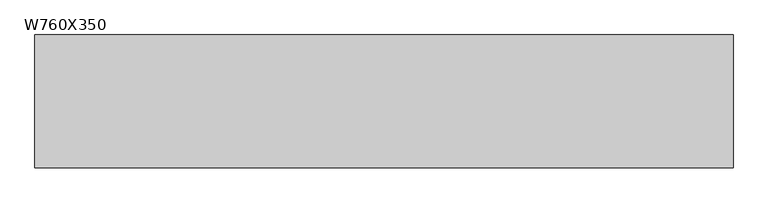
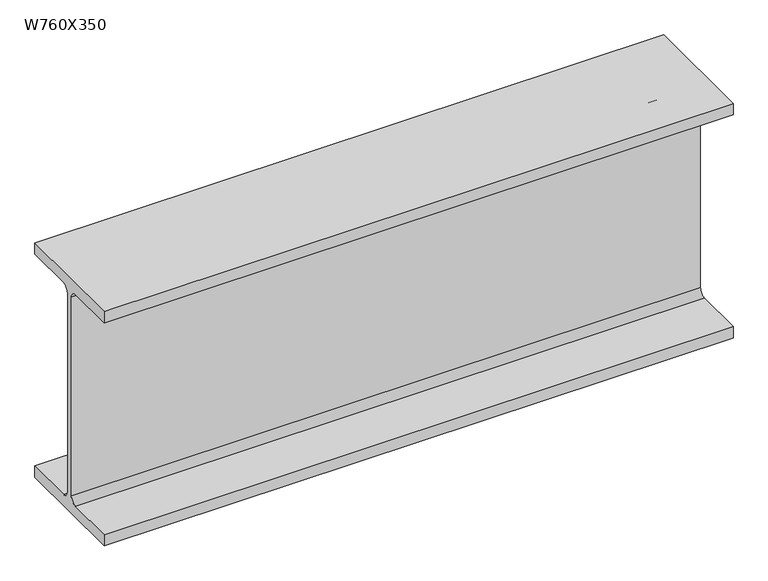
"""IFC4 building model written with IfcOpenShell, lengths in millimetres: beam geometry, M_W-Wide Flange : W760X350."""

from ifc_helpers import new_model, si_unit, point, frame, frame_2d, origin, place, context, project, spatial, polyline, circle_curve, trimmed, segment, composite_curve, outline, extrude, source, transform, mapped, element, save


def w760x350_7ec89315(model_context):
    return source(origin(), model_context, "Body", "SweptSolid", [
        extrude(outline(composite_curve([segment(polyline([(192.0, -359.4), (192.0, -397.5), (-192.0, -397.5), (-192.0, -359.4), (-32.75, -359.4)]), True, "CONTINUOUS"), segment(trimmed(circle_curve(frame_2d((-32.75, -337.2)), 22.2), [point((-32.75, -359.4))], [point((-10.55, -337.2))], True, "CARTESIAN"), True, "CONTINUOUS"), segment(polyline([(-10.55, -337.2), (-10.55, 337.2)]), True, "CONTINUOUS"), segment(trimmed(circle_curve(frame_2d((-32.75, 337.2)), 22.2), [point((-10.55, 337.2))], [point((-32.75, 359.4))], True, "CARTESIAN"), True, "CONTINUOUS"), segment(polyline([(-32.75, 359.4), (-192.0, 359.4), (-192.0, 397.5), (192.0, 397.5), (192.0, 359.4), (32.75, 359.4)]), True, "CONTINUOUS"), segment(trimmed(circle_curve(frame_2d((32.75, 337.2)), 22.2), [point((32.75, 359.4))], [point((10.55, 337.2))], True, "CARTESIAN"), True, "CONTINUOUS"), segment(polyline([(10.55, 337.2), (10.55, -337.2)]), True, "CONTINUOUS"), segment(trimmed(circle_curve(frame_2d((32.75, -337.2)), 22.2), [point((10.55, -337.2))], [point((32.75, -359.4))], True, "CARTESIAN"), True, "CONTINUOUS"), segment(polyline([(32.75, -359.4), (192.0, -359.4)]), True, "CONTINUOUS")], self_intersect=False)), frame((-1039.1522645, 0.0, 0.0), z_axis=(1.0, 0.0, 0.0), x_axis=(0.0, 1.0, 0.0)), (0.0, 0.0, 1.0), 2017.657864),
    ])


if __name__ == "__main__":
    model = new_model("IFC4")
    model_context = context("Model", 3, world=origin())
    ifc_project = project(units=[si_unit("LENGTHUNIT", "METRE", prefix="MILLI")], contexts=[model_context])
    site = spatial("IfcSite", under=ifc_project)
    building = spatial("IfcBuilding", under=site)
    placement = place(None, origin())
    w760x350_shape = w760x350_7ec89315(model_context)
    element("IfcBeam", 1, ObjectType="M_W-Wide Flange : W760X350", at=placement, inside=building, context=model_context, shape_type="MappedRepresentation", body=[
        mapped(w760x350_shape, transform((0.0, 0.0, 0.0), x_axis=(1.0, 0.0, 0.0), y_axis=(0.0, 1.0, 0.0), z_axis=(0.0, 0.0, 1.0))),
    ])
    save(model, "model.ifc")
